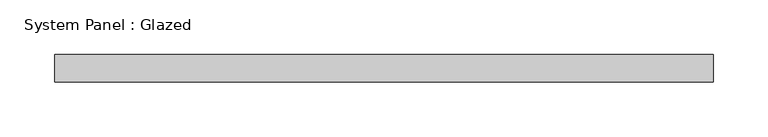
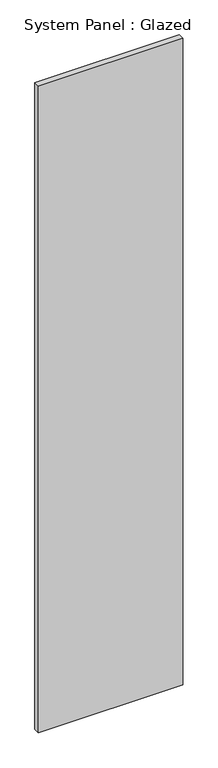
"""IFC4 building model written with IfcOpenShell, lengths in millimetres: plate geometry, System Panel : Glazed."""

from ifc_helpers import new_model, si_unit, origin, origin_with_axes, place, context, project, spatial, polyline, outline, extrude, source, transform, mapped, element, save


def system_panel_glazed_ea286d05(model_context):
    return source(origin(), model_context, "Body", "SweptSolid", [
        extrude(outline(polyline([(300.75, -49.5), (-300.75, -49.5), (-300.75, -24.5), (300.75, -24.5), (300.75, -49.5)])), origin_with_axes(), (0.0, 0.0, 1.0), 2850.0),
    ])


if __name__ == "__main__":
    model = new_model("IFC4")
    model_context = context("Model", 3, world=origin())
    ifc_project = project(units=[si_unit("LENGTHUNIT", "METRE", prefix="MILLI")], contexts=[model_context])
    site = spatial("IfcSite", under=ifc_project)
    building = spatial("IfcBuilding", under=site)
    placement = place(None, origin())
    system_panel_glazed_shape = system_panel_glazed_ea286d05(model_context)
    element("IfcPlate", 1, ObjectType="System Panel : Glazed", at=placement, inside=building, context=model_context, shape_type="MappedRepresentation", body=[
        mapped(system_panel_glazed_shape, transform((0.0, 0.0, 0.0), x_axis=(1.0, 0.0, 0.0), y_axis=(0.0, 1.0, 0.0), z_axis=(0.0, 0.0, 1.0))),
    ])
    save(model, "model.ifc")
